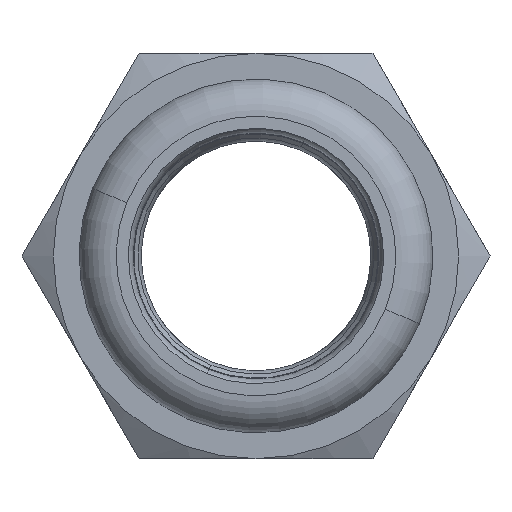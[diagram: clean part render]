
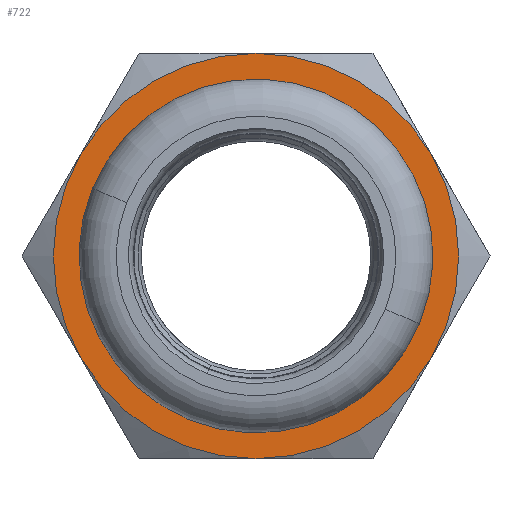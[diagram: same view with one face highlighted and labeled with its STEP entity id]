
A CAD part, left-side view. The second image highlights one B-rep face of the part: STEP entity #722.
In plain terms, the highlighted planar face has unit normal (-1, 0, 0) as drawn and (0, 1, 0) by its records, which use the part's own axes.
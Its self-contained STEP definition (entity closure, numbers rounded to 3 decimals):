
#56 = DIRECTION ( 'NONE',  ( 0., 1., 0. ) ) ;
#115 = DIRECTION ( 'NONE',  ( 0., 1., 0. ) ) ;
#126 = CARTESIAN_POINT ( 'NONE',  ( 0., 15., 10.8 ) ) ;
#156 = EDGE_CURVE ( 'NONE', #2820, #242, #3260, .T. ) ;
#183 = DIRECTION ( 'NONE',  ( 0., 0., -1. ) ) ;
#197 = CARTESIAN_POINT ( 'NONE',  ( 0., 15., 0. ) ) ;
#227 = FACE_OUTER_BOUND ( 'NONE', #1106, .T. ) ;
#242 = VERTEX_POINT ( 'NONE', #126 ) ;
#283 = DIRECTION ( 'NONE',  ( 0., 0., 1. ) ) ;
#300 = ORIENTED_EDGE ( 'NONE', *, *, #1448, .T. ) ;
#302 = EDGE_CURVE ( 'NONE', #2838, #3307, #4185, .T. ) ;
#316 = CARTESIAN_POINT ( 'NONE',  ( 0., 15., 0. ) ) ;
#380 = DIRECTION ( 'NONE',  ( 0., 1., 0. ) ) ;
#442 = CIRCLE ( 'NONE', #3797, 15. ) ;
#465 = DIRECTION ( 'NONE',  ( 0., 0., -1. ) ) ;
#531 = DIRECTION ( 'NONE',  ( 0., 0., -1. ) ) ;
#548 = AXIS2_PLACEMENT_3D ( 'NONE', #1120, #115, #465 ) ;
#558 = AXIS2_PLACEMENT_3D ( 'NONE', #2375, #56, #3394 ) ;
#629 = CIRCLE ( 'NONE', #1961, 15. ) ;
#713 = EDGE_LOOP ( 'NONE', ( #1629, #1320 ) ) ;
#722 = ADVANCED_FACE ( 'NONE', ( #2750, #227 ), #1383, .T. ) ;
#835 = VERTEX_POINT ( 'NONE', #1510 ) ;
#841 = DIRECTION ( 'NONE',  ( 0., 1., 0. ) ) ;
#863 = AXIS2_PLACEMENT_3D ( 'NONE', #3874, #841, #183 ) ;
#929 = CARTESIAN_POINT ( 'NONE',  ( 0., 15., 0. ) ) ;
#941 = VERTEX_POINT ( 'NONE', #1456 ) ;
#1045 = CARTESIAN_POINT ( 'NONE',  ( 0., 15., -15. ) ) ;
#1050 = DIRECTION ( 'NONE',  ( 1., 0., 0. ) ) ;
#1106 = EDGE_LOOP ( 'NONE', ( #3573, #3563, #2621, #3206, #300, #3684 ) ) ;
#1120 = CARTESIAN_POINT ( 'NONE',  ( 0., 15., 0. ) ) ;
#1149 = AXIS2_PLACEMENT_3D ( 'NONE', #929, #3566, #283 ) ;
#1157 = AXIS2_PLACEMENT_3D ( 'NONE', #3079, #1453, #3441 ) ;
#1320 = ORIENTED_EDGE ( 'NONE', *, *, #156, .T. ) ;
#1376 = CIRCLE ( 'NONE', #2321, 15. ) ;
#1383 = PLANE ( 'NONE',  #558 ) ;
#1413 = CIRCLE ( 'NONE', #2468, 15. ) ;
#1448 = EDGE_CURVE ( 'NONE', #3307, #2999, #1376, .T. ) ;
#1453 = DIRECTION ( 'NONE',  ( 0., -1., 0. ) ) ;
#1456 = CARTESIAN_POINT ( 'NONE',  ( 12.99, 15., 7.5 ) ) ;
#1504 = CARTESIAN_POINT ( 'NONE',  ( 0., 15., 0. ) ) ;
#1510 = CARTESIAN_POINT ( 'NONE',  ( 12.99, 15., -7.5 ) ) ;
#1547 = EDGE_CURVE ( 'NONE', #2999, #941, #1949, .T. ) ;
#1575 = CIRCLE ( 'NONE', #1149, 10.8 ) ;
#1629 = ORIENTED_EDGE ( 'NONE', *, *, #3370, .T. ) ;
#1804 = DIRECTION ( 'NONE',  ( 1., 0., 0. ) ) ;
#1821 = DIRECTION ( 'NONE',  ( 0., 1., 0. ) ) ;
#1949 = CIRCLE ( 'NONE', #548, 15. ) ;
#1961 = AXIS2_PLACEMENT_3D ( 'NONE', #197, #3158, #531 ) ;
#1972 = DIRECTION ( 'NONE',  ( 0., 1., 0. ) ) ;
#2171 = CARTESIAN_POINT ( 'NONE',  ( 0., 15., 15. ) ) ;
#2321 = AXIS2_PLACEMENT_3D ( 'NONE', #3719, #380, #1050 ) ;
#2323 = CARTESIAN_POINT ( 'NONE',  ( 0., 15., -10.8 ) ) ;
#2375 = CARTESIAN_POINT ( 'NONE',  ( 0., 15., 0. ) ) ;
#2468 = AXIS2_PLACEMENT_3D ( 'NONE', #1504, #1821, #1804 ) ;
#2621 = ORIENTED_EDGE ( 'NONE', *, *, #4129, .T. ) ;
#2691 = EDGE_CURVE ( 'NONE', #835, #2801, #442, .T. ) ;
#2750 = FACE_BOUND ( 'NONE', #713, .T. ) ;
#2801 = VERTEX_POINT ( 'NONE', #1045 ) ;
#2820 = VERTEX_POINT ( 'NONE', #2323 ) ;
#2838 = VERTEX_POINT ( 'NONE', #4102 ) ;
#2999 = VERTEX_POINT ( 'NONE', #2171 ) ;
#3079 = CARTESIAN_POINT ( 'NONE',  ( 0., 15., 0. ) ) ;
#3158 = DIRECTION ( 'NONE',  ( 0., 1., 0. ) ) ;
#3206 = ORIENTED_EDGE ( 'NONE', *, *, #302, .T. ) ;
#3260 = CIRCLE ( 'NONE', #1157, 10.8 ) ;
#3307 = VERTEX_POINT ( 'NONE', #4210 ) ;
#3370 = EDGE_CURVE ( 'NONE', #242, #2820, #1575, .T. ) ;
#3394 = DIRECTION ( 'NONE',  ( 0., 0., 1. ) ) ;
#3441 = DIRECTION ( 'NONE',  ( 0., 0., 1. ) ) ;
#3563 = ORIENTED_EDGE ( 'NONE', *, *, #2691, .T. ) ;
#3566 = DIRECTION ( 'NONE',  ( 0., -1., 0. ) ) ;
#3573 = ORIENTED_EDGE ( 'NONE', *, *, #4186, .T. ) ;
#3684 = ORIENTED_EDGE ( 'NONE', *, *, #1547, .T. ) ;
#3719 = CARTESIAN_POINT ( 'NONE',  ( 0., 15., 0. ) ) ;
#3797 = AXIS2_PLACEMENT_3D ( 'NONE', #316, #1972, #4316 ) ;
#3874 = CARTESIAN_POINT ( 'NONE',  ( 0., 15., 0. ) ) ;
#4102 = CARTESIAN_POINT ( 'NONE',  ( -12.99, 15., -7.5 ) ) ;
#4129 = EDGE_CURVE ( 'NONE', #2801, #2838, #1413, .T. ) ;
#4185 = CIRCLE ( 'NONE', #863, 15. ) ;
#4186 = EDGE_CURVE ( 'NONE', #941, #835, #629, .T. ) ;
#4210 = CARTESIAN_POINT ( 'NONE',  ( -12.99, 15., 7.5 ) ) ;
#4316 = DIRECTION ( 'NONE',  ( 1., 0., 0. ) ) ;
